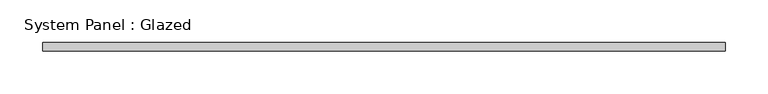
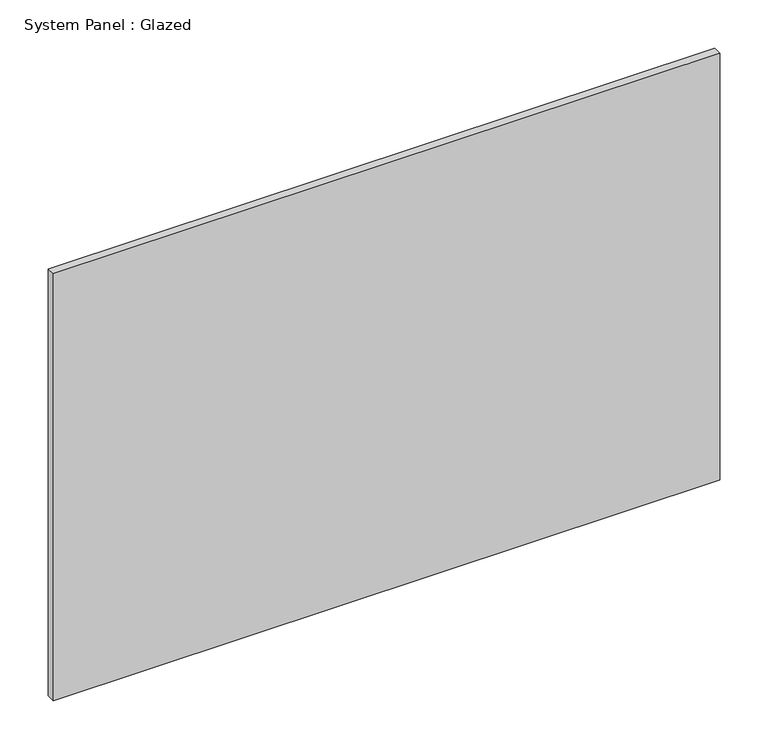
"""IFC4 building model written with IfcOpenShell, lengths in millimetres: plate geometry, System Panel : Glazed."""

from ifc_helpers import new_model, si_unit, origin, origin_with_axes, place, context, project, spatial, polyline, outline, extrude, source, transform, mapped, element, save


def system_panel_glazed_4b31ab0a(model_context):
    return source(origin(), model_context, "Body", "SweptSolid", [
        extrude(outline(polyline([(398.3333333, -5.0), (-398.3333333, -5.0), (-398.3333333, 5.0), (398.3333333, 5.0), (398.3333333, -5.0)])), origin_with_axes(), (0.0, 0.0, 1.0), 540.0),
    ])


if __name__ == "__main__":
    model = new_model("IFC4")
    model_context = context("Model", 3, world=origin())
    ifc_project = project(units=[si_unit("LENGTHUNIT", "METRE", prefix="MILLI")], contexts=[model_context])
    site = spatial("IfcSite", under=ifc_project)
    building = spatial("IfcBuilding", under=site)
    placement = place(None, origin())
    system_panel_glazed_shape = system_panel_glazed_4b31ab0a(model_context)
    element("IfcPlate", 1, ObjectType="System Panel : Glazed", at=placement, inside=building, context=model_context, shape_type="MappedRepresentation", body=[
        mapped(system_panel_glazed_shape, transform((0.0, 0.0, 0.0), x_axis=(1.0, 0.0, 0.0), y_axis=(0.0, 1.0, 0.0), z_axis=(0.0, 0.0, 1.0))),
    ])
    save(model, "model.ifc")
